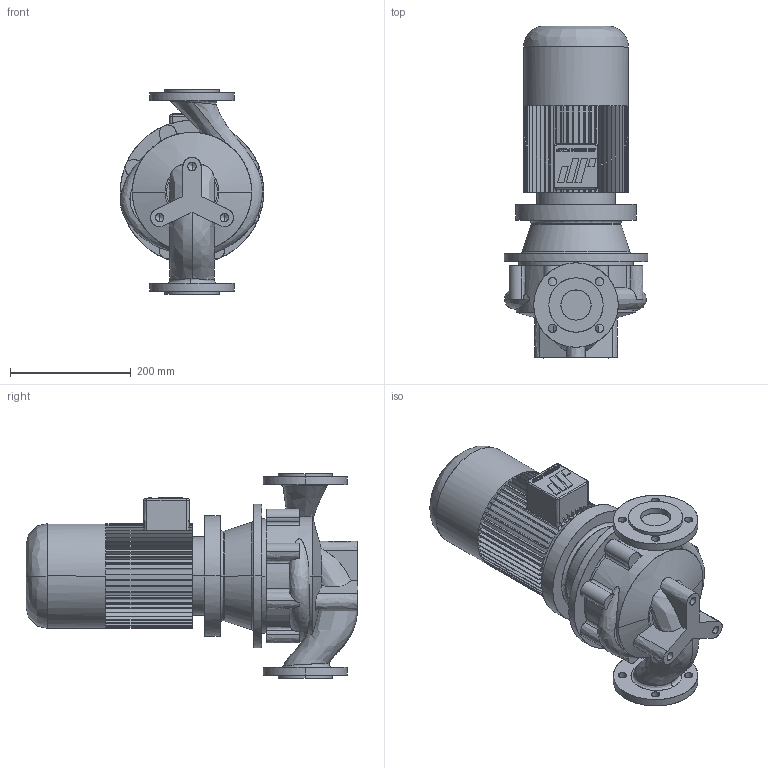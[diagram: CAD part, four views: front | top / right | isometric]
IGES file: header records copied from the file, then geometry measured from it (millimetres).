
Start section: CombiLine
Global section: file name: CLB_50-160_IEC90S.igs; native system:  By UGS Corp.; preprocessor: XPlus GENERIC/IGES 3.0; author: Stageplaats; organization: Johnson Pump Water B.V.; date: 20070713.130409; units: millimetre
Bounding box: 238 x 550.5 x 340 mm (x, y, z)
Surface area: 681192.5 mm2 (no closed solid volume)
Topology: 0 solids, 0 shells, 542 faces, 3296 edges, 3290 vertices
Faces by surface type: bspline 542
